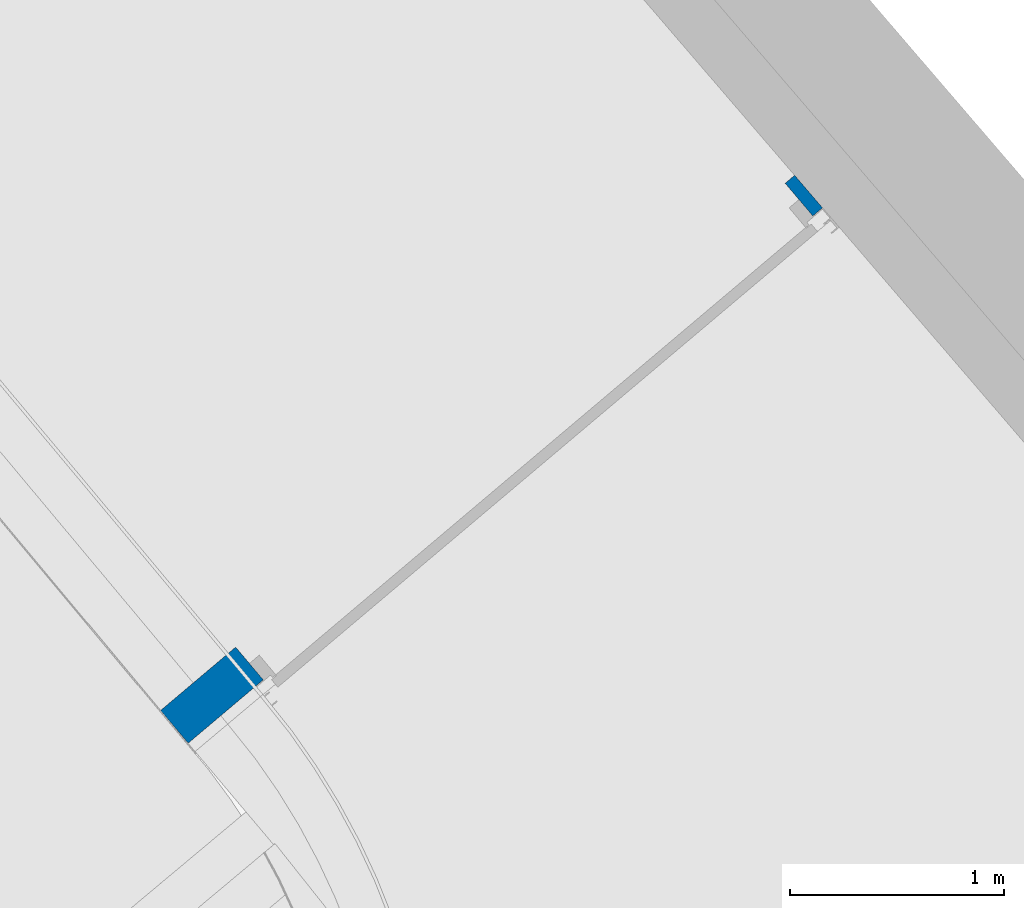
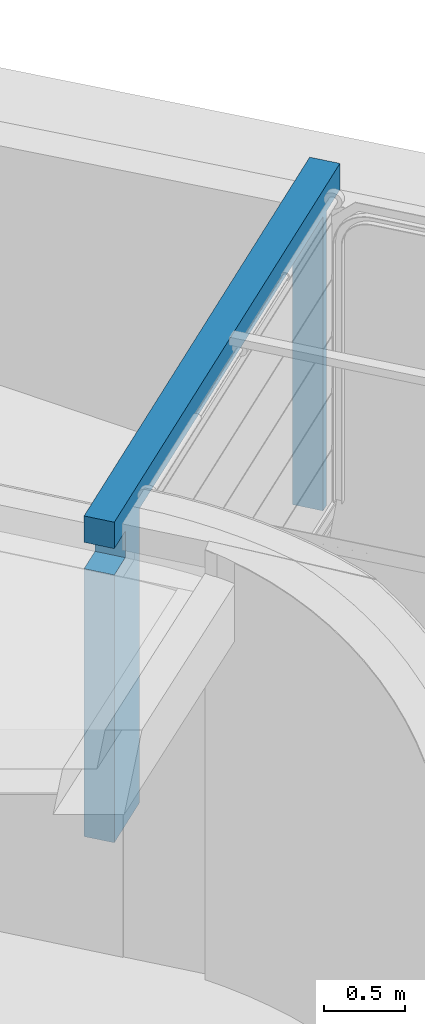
# One storey, part 7 of 17: 1 wall, 1 opening.
"""IFC4 building model written with IfcOpenShell, lengths in metres."""

import ifcopenshell
import ifcopenshell.guid

model = None  # the IFC model being written
_history = None  # IfcOwnerHistory: only IFC2X3 demands one
_inside = {}  # id of a spatial element -> (the spatial element, [elements in it])
_under = {}  # id of a project, library or spatial element -> (it, [spatial elements below it])
_declared = {}  # id of a project -> (the project, [libraries it declares])
_typed = {}  # id of a type object -> (the type object, [elements of that type])
_made_of = {}  # id of a material, layer set ... -> (it, [elements and type objects made of it])


def new_model(schema):
    """Start an empty IFC model of exactly this schema.

    Asked for "IFC4X3", IfcOpenShell would pick the latest addendum, in which some entities
    have other attributes; the version numbers below select the first issue.
    IFC2X3 requires an IfcOwnerHistory on every rooted entity: one is made here for all.
    """
    global model, _history
    if schema == "IFC4X3":
        model = ifcopenshell.file(schema_version=(4, 3, 0, 0))
    else:
        model = ifcopenshell.file(schema=schema)
    _inside.clear()
    _under.clear()
    _declared.clear()
    _typed.clear()
    _made_of.clear()
    _history = None
    if model.schema == "IFC2X3":
        org = make("IfcOrganization", Name="unknown")
        user = make(
            "IfcPersonAndOrganization",
            ThePerson=make("IfcPerson", FamilyName="unknown"),
            TheOrganization=org,
        )
        app = make(
            "IfcApplication",
            ApplicationDeveloper=org,
            Version="unknown",
            ApplicationFullName="unknown",
            ApplicationIdentifier="unknown",
        )
        _history = make(
            "IfcOwnerHistory",
            OwningUser=user,
            OwningApplication=app,
            ChangeAction="ADDED",
            CreationDate=0,
        )
    return model


def make(cls, **values):
    """One entity of the class cls with the attributes given. An attribute that is None is left unset."""
    return model.create_entity(
        cls, **{name: value for name, value in values.items() if value is not None}
    )


def entity(cls, *values):
    """Any entity or typed value of the class cls, its attributes in the order of the schema. None: left unset."""
    e = model.create_entity(cls)
    for i, value in enumerate(values):
        if value is not None:
            e[i] = value
    return e


def rooted(cls, **values):
    """An entity with a GlobalId (a new one), such as an element, a storey or a relation."""
    return make(cls, GlobalId=ifcopenshell.guid.new(), OwnerHistory=_history, **values)


def si_unit(unit_type, name, prefix=None):
    """IfcSIUnit, for example si_unit("LENGTHUNIT", "METRE", prefix="MILLI")."""
    return make("IfcSIUnit", UnitType=unit_type, Prefix=prefix, Name=name)


def converted_unit(unit_type, name, factor, base, dimensions=None, offset=None):
    """IfcConversionBasedUnit, such as the inch: factor (a typed value) times the base unit."""
    return make(
        "IfcConversionBasedUnit"
        if offset is None
        else "IfcConversionBasedUnitWithOffset",
        ConversionOffset=offset,
        Dimensions=None
        if dimensions is None
        else entity("IfcDimensionalExponents", *dimensions),
        UnitType=unit_type,
        Name=name,
        ConversionFactor=make(
            "IfcMeasureWithUnit", ValueComponent=factor, UnitComponent=base
        ),
    )


def derived_unit(unit_type, elements):
    """IfcDerivedUnit: a product of units, each with its exponent."""
    return make(
        "IfcDerivedUnit",
        Elements=[
            make("IfcDerivedUnitElement", Unit=unit, Exponent=power)
            for unit, power in elements
        ],
        UnitType=unit_type,
    )


def assignment(units):
    """IfcUnitAssignment: the units of a project."""
    return None if units is None else make("IfcUnitAssignment", Units=units)


def point(xyz):
    """IfcCartesianPoint."""
    return None if xyz is None else make("IfcCartesianPoint", Coordinates=xyz)


def direction(xyz):
    """IfcDirection."""
    return None if xyz is None else make("IfcDirection", DirectionRatios=xyz)


def frame(location, z_axis=None, x_axis=None):
    """IfcAxis2Placement3D, a coordinate frame: its origin and axes. An axis left out is left unset."""
    return make(
        "IfcAxis2Placement3D",
        Location=point(location),
        Axis=direction(z_axis),
        RefDirection=direction(x_axis),
    )


def origin_with_axes():
    """The frame at (0, 0, 0) with the z axis (0, 0, 1) and the x axis (1, 0, 0) written out."""
    return frame((0.0, 0.0, 0.0), z_axis=(0.0, 0.0, 1.0), x_axis=(1.0, 0.0, 0.0))


def place(relative_to, where):
    """IfcLocalPlacement: puts the frame where relative to a parent placement (None: the world)."""
    return make(
        "IfcLocalPlacement", PlacementRelTo=relative_to, RelativePlacement=where
    )


def context(
    kind, dimensions, precision=None, world=None, true_north=None, identifier=None
):
    """IfcGeometricRepresentationContext, for example the 3D "Model" context."""
    return make(
        "IfcGeometricRepresentationContext",
        ContextIdentifier=identifier,
        ContextType=kind,
        CoordinateSpaceDimension=dimensions,
        Precision=precision,
        WorldCoordinateSystem=world,
        TrueNorth=true_north,
    )


def subcontext(parent, identifier, kind, view, scale=None):
    """IfcGeometricRepresentationSubContext, for example "Body" below "Model"."""
    return make(
        "IfcGeometricRepresentationSubContext",
        ContextIdentifier=identifier,
        ContextType=kind,
        ParentContext=parent,
        TargetScale=scale,
        TargetView=view,
    )


def project(units=None, contexts=None):
    """IfcProject with its units and contexts."""
    return rooted(
        "IfcProject",
        Name="project",
        RepresentationContexts=contexts,
        UnitsInContext=assignment(units),
    )


def spatial(cls, under=None, at=None, **own):
    """A site, building, storey or space (cls), placed at a placement, below another one or the project."""
    s = rooted(cls, ObjectPlacement=at, **own)
    if under is not None:
        _under.setdefault(under.id(), (under, []))[1].append(s)
    return s


def point_list(points):
    """IfcCartesianPointList2D or 3D."""
    cls = (
        "IfcCartesianPointList2D" if len(points[0]) == 2 else "IfcCartesianPointList3D"
    )
    return make(cls, CoordList=points)


def polygons(points, faces, closed=None, point_numbers=None):
    """IfcPolygonalFaceSet: a face is its outer loop, then its inner loops; points numbered from 1."""
    made = []
    for loops in faces:
        if len(loops) == 1:
            made.append(make("IfcIndexedPolygonalFace", CoordIndex=loops[0]))
        else:
            made.append(
                make(
                    "IfcIndexedPolygonalFaceWithVoids",
                    CoordIndex=loops[0],
                    InnerCoordIndices=loops[1:],
                )
            )
    return make(
        "IfcPolygonalFaceSet",
        Coordinates=point_list(points),
        Closed=closed,
        Faces=made,
        PnIndex=point_numbers,
    )


def shape(context_of_items, identifier, shape_type, items):
    """IfcShapeRepresentation: the items that make up one representation, for example the "Body"."""
    return make(
        "IfcShapeRepresentation",
        ContextOfItems=context_of_items,
        RepresentationIdentifier=identifier,
        RepresentationType=shape_type,
        Items=items,
    )


def material(Name=None, Category=None):
    """IfcMaterial."""
    return make("IfcMaterial", Name=Name, Category=Category)


def made_of(thing, what):
    """Note that an element or type object is made of a material, layer set ...; save() writes the relation."""
    if what is not None:
        _made_of.setdefault(what.id(), (what, []))[1].append(thing)
    return thing


def type_object(cls, material=None, **own):
    """A type object (cls), such as IfcWallType, which elements share."""
    return made_of(rooted(cls, **own), material)


def element(
    cls,
    number,
    at=None,
    inside=None,
    cuts=None,
    type_object=None,
    material=None,
    context=None,
    identifier="Body",
    shape_type=None,
    held_by="IfcProductDefinitionShape",
    body=None,
    shapes=None,
    **own,
):
    """One element of the class cls, such as IfcWall. Its Tag is "e" and its number.

    at: its placement. inside: the storey or other place that contains it. cuts: it is an
    opening in that element (IfcRelVoidsElement). A single representation is given by context,
    identifier, shape_type and body (its items); several are given by shapes. held_by: the class
    of the entity that holds the representations. save() writes the other relations.
    """
    e = rooted(cls, Tag="e%d" % number, ObjectPlacement=at, **own)
    if body is not None:
        shapes = [shape(context, identifier, shape_type, body)]
    if shapes is not None:
        e.Representation = make(held_by, Representations=shapes)
    if inside is not None:
        _inside.setdefault(inside.id(), (inside, []))[1].append(e)
    if cuts is not None:
        rooted(
            "IfcRelVoidsElement", RelatingBuildingElement=cuts, RelatedOpeningElement=e
        )
    if type_object is not None:
        _typed.setdefault(type_object.id(), (type_object, []))[1].append(e)
    return made_of(e, material)


def aggregate(whole, parts):
    """IfcRelAggregates: a whole, such as a stair, and the parts it consists of."""
    return rooted("IfcRelAggregates", RelatingObject=whole, RelatedObjects=parts)


def save(model, path):
    """Write the relations noted so far, then the file.

    IfcRelAggregates (storeys below a building ...), IfcRelContainedInSpatialStructure (elements
    in a storey), IfcRelDefinesByType, IfcRelAssociatesMaterial and IfcRelDeclares: one each for
    every whole, place, type object, material and project.
    """
    for whole, parts in _under.values():
        aggregate(whole, parts)
    for where, things in _inside.values():
        rooted(
            "IfcRelContainedInSpatialStructure",
            RelatedElements=things,
            RelatingStructure=where,
        )
    for kind, things in _typed.values():
        rooted("IfcRelDefinesByType", RelatedObjects=things, RelatingType=kind)
    for what, things in _made_of.values():
        rooted("IfcRelAssociatesMaterial", RelatedObjects=things, RelatingMaterial=what)
    for by, libraries in _declared.values():
        rooted("IfcRelDeclares", RelatingContext=by, RelatedDefinitions=libraries)
    model.write(path)


model = new_model("IFC4")

# Units and contexts
model_context = context("Model", 3, precision=1e-05, world=origin_with_axes(), true_north=direction((0.0, 1.0)))
body_context = subcontext(model_context, "Body", "Model", "MODEL_VIEW")
ifc_project = project(units=[si_unit("LENGTHUNIT", "METRE"), si_unit("AREAUNIT", "SQUARE_METRE"), si_unit("VOLUMEUNIT", "CUBIC_METRE"), converted_unit("PLANEANGLEUNIT", "DEGREE", entity("IfcPlaneAngleMeasure", 0.0174532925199), si_unit("PLANEANGLEUNIT", "RADIAN"), dimensions=[0, 0, 0, 0, 0, 0, 0]), converted_unit("TIMEUNIT", "Year", entity("IfcTimeMeasure", 31556926.0), si_unit("TIMEUNIT", "SECOND"), dimensions=[0, 0, 1, 0, 0, 0, 0]), si_unit("MASSUNIT", "GRAM", prefix="KILO"), si_unit("THERMODYNAMICTEMPERATUREUNIT", "DEGREE_CELSIUS"), si_unit("LUMINOUSINTENSITYUNIT", "LUMEN"), si_unit("ENERGYUNIT", "JOULE", prefix="MEGA"), derived_unit("THERMALCONDUCTANCEUNIT", [(si_unit("POWERUNIT", "WATT"), 1), (si_unit("LENGTHUNIT", "METRE"), -1), (si_unit("THERMODYNAMICTEMPERATUREUNIT", "KELVIN"), -1)]), derived_unit("SPECIFICHEATCAPACITYUNIT", [(si_unit("ENERGYUNIT", "JOULE"), 1), (si_unit("MASSUNIT", "GRAM", prefix="KILO"), -1), (si_unit("THERMODYNAMICTEMPERATUREUNIT", "KELVIN"), -1)]), derived_unit("MASSDENSITYUNIT", [(si_unit("MASSUNIT", "GRAM", prefix="KILO"), 1), (si_unit("VOLUMEUNIT", "CUBIC_METRE"), -1)])], contexts=[model_context])

# Site, building, storey
site_placement = place(None, frame((-0.00153261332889, -0.00661245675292, 0.0), z_axis=(0.0, 0.0, 1.0), x_axis=(1.0, 0.0, 0.0)))
site = spatial("IfcSite", under=ifc_project, at=site_placement, Name="Site", CompositionType="ELEMENT")
building_placement = place(site_placement, origin_with_axes())
building = spatial("IfcBuilding", under=site, at=building_placement, Name="Building", CompositionType="ELEMENT")
storey_placement = place(building_placement, frame((0.0, 0.0, -3.3), z_axis=(0.0, 0.0, 1.0), x_axis=(1.0, 0.0, 0.0)))
storey = spatial("IfcBuildingStorey", under=building, at=storey_placement, Name="UG1", CompositionType="ELEMENT", Elevation=-3.3)

# Wall, opening
ifc_material = material(Name="Stahlbeton Wand")
wall_type = type_object("IfcWallType", Name="Stahlbeton Wand 200", PredefinedType="NOTDEFINED")
wall_placement = place(storey_placement, frame((12.9154638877, 20.9634982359, 0.85), z_axis=(0.0, 0.0, 1.0), x_axis=(0.764171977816, 0.645012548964, 0.0)))
wall = element("IfcWall", 1, at=wall_placement, inside=storey, type_object=wall_type, material=ifc_material, Name="Wand-007", PredefinedType="NOTDEFINED", context=body_context, shape_type="Tessellation", body=[
    polygons([(0.458991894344, 0.0, 0.0), (0.458991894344, 0.0, 2.23), (3.81899189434, 0.0, 2.23), (3.81899189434, 0.0, 0.0), (3.87858869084, 0.0, 0.0), (3.87858869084, 0.0, 2.23), (4.12859842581, 0.0, 2.23), (4.12859842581, 0.0, 2.43), (0.0, 0.0, 2.43), (0.0, 0.0, 2.23), (0.199876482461, 0.0, 2.23), (0.199876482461, 0.0, 2.03), (0.0, 0.0, 2.03), (0.0, 0.0, 0.0), (0.458991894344, 0.2, 0.0), (0.458991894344, 0.2, 2.23), (3.81899189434, 0.2, 2.23), (3.81899189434, 0.2, 0.0), (3.87682368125, 0.2, 0.0), (3.87682368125, 0.2, 2.23), (4.12859842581, 0.2, 2.23), (4.12859842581, 0.2, 2.43), (0.0, 0.2, 2.43), (0.0, 0.2, 2.23), (0.200855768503, 0.2, 2.23), (0.200855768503, 0.2, 2.03), (0.0, 0.2, 2.03), (0.0, 0.2, 0.0)], [[[1, 2, 3, 4, 5, 6, 7, 8, 9, 10, 11, 12, 13, 14]], [[2, 1, 15, 16]], [[3, 2, 16, 17]], [[4, 3, 17, 18]], [[4, 18, 19, 5]], [[20, 6, 5, 19]], [[20, 21, 7, 6]], [[8, 7, 21, 22]], [[23, 9, 8, 22]], [[24, 10, 9, 23]], [[11, 10, 24, 25]], [[12, 11, 25, 26]], [[13, 12, 26, 27]], [[13, 27, 28, 14]], [[15, 1, 14, 28]], [[16, 15, 28, 27, 26, 25, 24, 23, 22, 21, 20, 19, 18, 17]]], closed=True),
])
opening_placement = place(wall_placement, frame((2.13899189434, 0.0, 0.07), z_axis=(0.0, 0.0, 1.0), x_axis=(1.0, 0.0, 0.0)))
element("IfcOpeningElement", 2, at=opening_placement, cuts=wall, Name="Tür-001", context=body_context, identifier="Reference", shape_type="Tessellation", body=[
    polygons([(-1.68, -2.03598829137, 2.16), (-1.68, -2.03598829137, -0.92), (1.68, -2.03598829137, -0.92), (1.68, -2.03598829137, 2.16), (-1.68, 2.23598829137, 2.16), (-1.68, 2.23598829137, -0.92), (1.68, 2.23598829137, -0.92), (1.68, 2.23598829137, 2.16)], [[[1, 2, 3, 4]], [[5, 6, 2, 1]], [[6, 7, 3, 2]], [[7, 8, 4, 3]], [[8, 5, 1, 4]], [[7, 6, 5, 8]]], closed=True),
])

save(model, "model.ifc")
